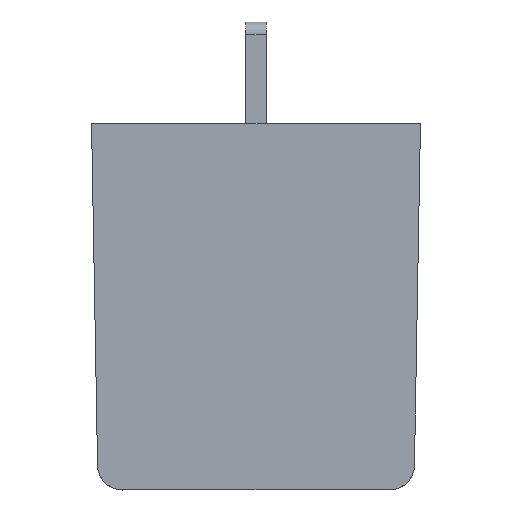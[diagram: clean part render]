
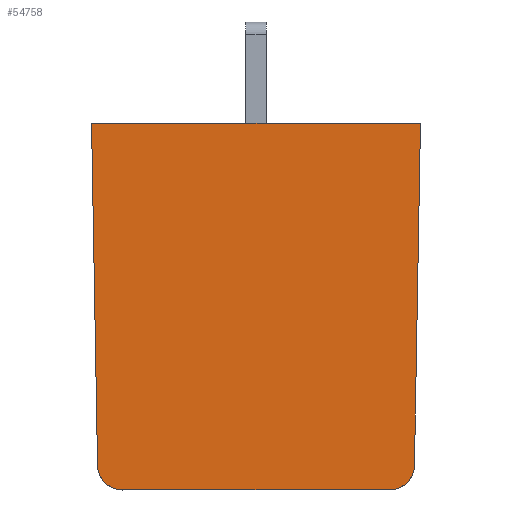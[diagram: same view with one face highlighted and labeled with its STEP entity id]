
A CAD part, left-side view. The second image highlights one B-rep face of the part: STEP entity #54758.
In plain terms, the highlighted planar face has unit normal (-1, 0, 0).
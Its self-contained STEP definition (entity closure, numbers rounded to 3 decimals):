
#22806=CARTESIAN_POINT('',(0.,11.764,-13.501));
#22807=DIRECTION('',(-1.,0.,0.));
#22808=DIRECTION('',(0.,1.,-0.017));
#22809=AXIS2_PLACEMENT_3D('',#22806,#22807,#22808);
#22811=DIRECTION('',(0.,-0.017,-1.));
#22812=VECTOR('',#22811,13.52);
#22813=CARTESIAN_POINT('',(0.,13.,-0.001));
#22814=LINE('',#22813,#22812);
#22815=DIRECTION('',(0.,1.,0.));
#22816=VECTOR('',#22815,13.);
#22817=CARTESIAN_POINT('',(0.,0.,-0.001));
#22818=LINE('',#22817,#22816);
#22819=DIRECTION('',(0.,-0.017,1.));
#22820=VECTOR('',#22819,13.52);
#22821=CARTESIAN_POINT('',(0.,0.236,-13.519));
#22822=LINE('',#22821,#22820);
#22823=CARTESIAN_POINT('',(0.,1.236,-13.501));
#22824=DIRECTION('',(-1.,0.,0.));
#22825=DIRECTION('',(0.,0.,-1.));
#22826=AXIS2_PLACEMENT_3D('',#22823,#22824,#22825);
#22828=DIRECTION('',(0.,-1.,0.));
#22829=VECTOR('',#22828,10.528);
#22830=CARTESIAN_POINT('',(0.,11.764,-14.501));
#22831=LINE('',#22830,#22829);
#22857=CARTESIAN_POINT('',(0.,0.,-0.001));
#22859=VERTEX_POINT('',#22857);
#22860=CARTESIAN_POINT('',(0.,13.,-0.001));
#22861=VERTEX_POINT('',#22860);
#22868=CARTESIAN_POINT('',(0.,0.236,-13.519));
#22870=VERTEX_POINT('',#22868);
#22871=CARTESIAN_POINT('',(0.,1.236,-14.501));
#22873=VERTEX_POINT('',#22871);
#22876=CARTESIAN_POINT('',(0.,11.764,-14.501));
#22878=VERTEX_POINT('',#22876);
#22879=CARTESIAN_POINT('',(0.,12.764,-13.519));
#22881=VERTEX_POINT('',#22879);
#54741=CARTESIAN_POINT('',(0.,6.5,-0.001));
#54742=DIRECTION('',(-1.,0.,0.));
#54743=DIRECTION('',(0.,1.,0.));
#54744=AXIS2_PLACEMENT_3D('',#54741,#54742,#54743);
#54745=PLANE('',#54744);
#54747=ORIENTED_EDGE('',*,*,#54746,.F.);
#54748=ORIENTED_EDGE('',*,*,#54734,.F.);
#54749=ORIENTED_EDGE('',*,*,#54648,.F.);
#54751=ORIENTED_EDGE('',*,*,#54750,.F.);
#54753=ORIENTED_EDGE('',*,*,#54752,.F.);
#54755=ORIENTED_EDGE('',*,*,#54754,.F.);
#54756=EDGE_LOOP('',(#54747,#54748,#54749,#54751,#54753,#54755));
#54757=FACE_OUTER_BOUND('',#54756,.F.);
#54758=ADVANCED_FACE('',(#54757),#54745,.T.);
#22810=CIRCLE('',#22809,1.);
#22827=CIRCLE('',#22826,1.);
#54648=EDGE_CURVE('',#22859,#22861,#22818,.T.);
#54734=EDGE_CURVE('',#22861,#22881,#22814,.T.);
#54746=EDGE_CURVE('',#22881,#22878,#22810,.T.);
#54750=EDGE_CURVE('',#22870,#22859,#22822,.T.);
#54752=EDGE_CURVE('',#22873,#22870,#22827,.T.);
#54754=EDGE_CURVE('',#22878,#22873,#22831,.T.);
